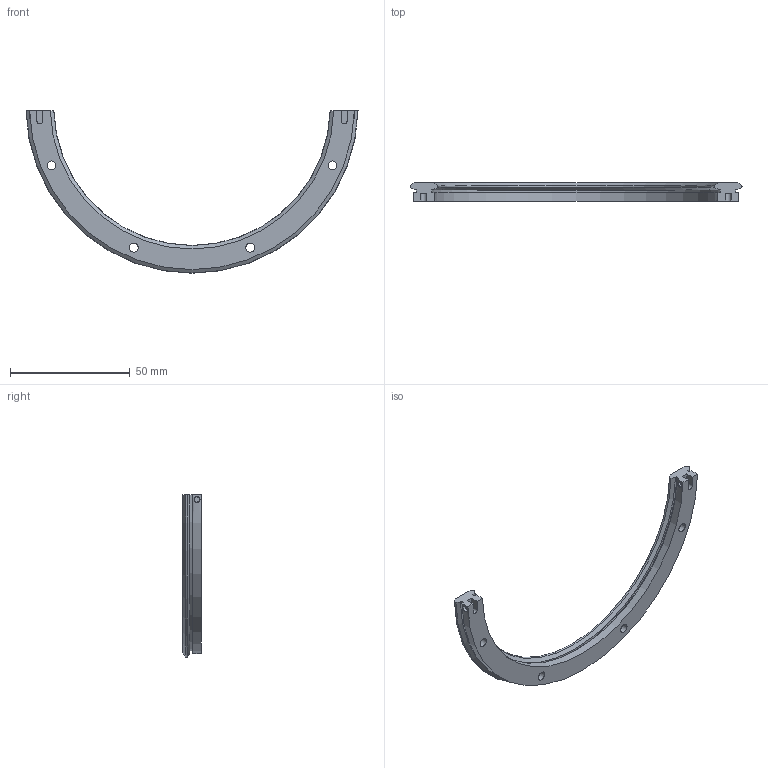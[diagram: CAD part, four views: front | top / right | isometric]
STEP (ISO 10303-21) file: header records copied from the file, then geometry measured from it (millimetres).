
FILE_DESCRIPTION( ( 'STEP AP203' ), '1' );
FILE_NAME( 'p:/temp/worker_25/temp/exporttempdir_4792_970_bkeov/format_0/TR12 127 R180.stp', '2021-09-17T07:38:00', ( 'License CC BY-ND 4.0' ), ( 'CADENAS' ), ' ', 'PARTsolutions', ' ' );
FILE_SCHEMA( ( 'CONFIG_CONTROL_DESIGN' ) );
Length unit declared in the file: millimetre
Products named in the file (1): _TR12 127 R180
Bounding box: 138.59 x 7.7 x 67.81 mm (x, y, z)
Volume: 12754.2 mm3; surface area: 8368.6 mm2
Topology: 1 solids, 1 shells, 74 faces, 183 edges, 123 vertices
Faces by surface type: plane 50, cylinder 18, cone 4, torus 2
Full cylindrical faces by diameter (mm): 2.5 x4, 3.7 x4, 6 x4
Entity records: 2342 total; most frequent: CARTESIAN_POINT 570, DIRECTION 342, ORIENTED_EDGE 336, EDGE_CURVE 168, VERTEX_POINT 121, AXIS2_PLACEMENT_3D 115, LINE 112, VECTOR 112
